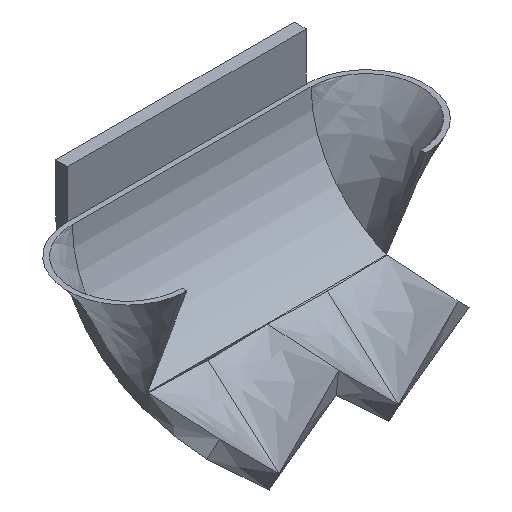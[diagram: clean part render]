
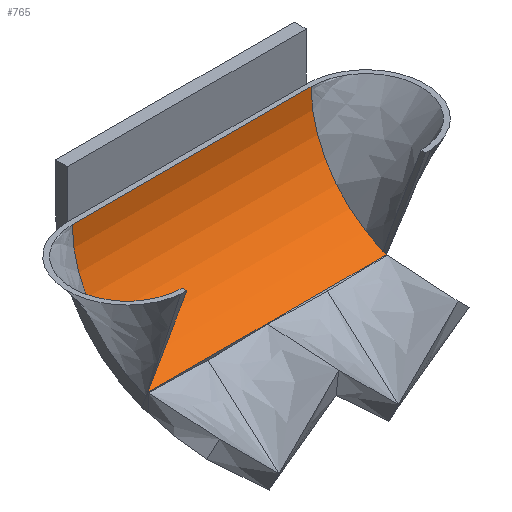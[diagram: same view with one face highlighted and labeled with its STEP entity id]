
A CAD part, isometric view. The second image highlights one B-rep face of the part: STEP entity #765.
In plain terms, the highlighted cylindrical face has radius 48 mm (diameter 96 mm), a partial arc.
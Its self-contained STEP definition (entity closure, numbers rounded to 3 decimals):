
#124=FACE_OUTER_BOUND('',#171,.T.);
#171=EDGE_LOOP('',(#652,#653,#654,#655,#656,#657,#658,#659,#660,#661));
#190=CIRCLE('',#802,48.);
#192=CIRCLE('',#805,48.);
#196=CIRCLE('',#810,48.);
#197=CIRCLE('',#811,48.);
#224=LINE('',#1587,#288);
#227=LINE('',#1608,#291);
#228=LINE('',#1654,#292);
#230=LINE('',#1683,#294);
#234=LINE('',#1733,#298);
#254=LINE('',#1982,#318);
#288=VECTOR('',#857,10.);
#291=VECTOR('',#860,10.);
#292=VECTOR('',#861,10.);
#294=VECTOR('',#863,10.);
#298=VECTOR('',#871,10.);
#318=VECTOR('',#931,10.);
#357=VERTEX_POINT('',#1585);
#358=VERTEX_POINT('',#1586);
#360=VERTEX_POINT('',#1606);
#361=VERTEX_POINT('',#1653);
#363=VERTEX_POINT('',#1681);
#365=VERTEX_POINT('',#1732);
#367=VERTEX_POINT('',#1777);
#368=VERTEX_POINT('',#1778);
#373=VERTEX_POINT('',#1851);
#376=VERTEX_POINT('',#1898);
#433=EDGE_CURVE('',#357,#358,#224,.T.);
#437=EDGE_CURVE('',#358,#360,#227,.T.);
#438=EDGE_CURVE('',#360,#361,#228,.T.);
#441=EDGE_CURVE('',#361,#363,#230,.T.);
#447=EDGE_CURVE('',#365,#357,#234,.T.);
#450=EDGE_CURVE('',#367,#368,#190,.T.);
#453=EDGE_CURVE('',#368,#363,#192,.T.);
#460=EDGE_CURVE('',#365,#373,#196,.T.);
#464=EDGE_CURVE('',#373,#376,#197,.T.);
#479=EDGE_CURVE('',#376,#367,#254,.T.);
#652=ORIENTED_EDGE('',*,*,#479,.F.);
#653=ORIENTED_EDGE('',*,*,#464,.F.);
#654=ORIENTED_EDGE('',*,*,#460,.F.);
#655=ORIENTED_EDGE('',*,*,#447,.T.);
#656=ORIENTED_EDGE('',*,*,#433,.T.);
#657=ORIENTED_EDGE('',*,*,#437,.T.);
#658=ORIENTED_EDGE('',*,*,#438,.T.);
#659=ORIENTED_EDGE('',*,*,#441,.T.);
#660=ORIENTED_EDGE('',*,*,#453,.F.);
#661=ORIENTED_EDGE('',*,*,#450,.F.);
#734=CYLINDRICAL_SURFACE('',#822,48.);
#765=ADVANCED_FACE('',(#124),#734,.F.);
#802=AXIS2_PLACEMENT_3D('',#1779,#874,#875);
#805=AXIS2_PLACEMENT_3D('',#1784,#881,#882);
#810=AXIS2_PLACEMENT_3D('',#1852,#894,#895);
#811=AXIS2_PLACEMENT_3D('',#1899,#899,#900);
#822=AXIS2_PLACEMENT_3D('',#1983,#932,#933);
#857=DIRECTION('',(1.,0.,0.));
#860=DIRECTION('',(1.,0.,0.));
#861=DIRECTION('',(1.,0.,0.));
#863=DIRECTION('',(1.,0.,0.));
#871=DIRECTION('',(1.,0.,0.));
#874=DIRECTION('center_axis',(-1.,0.,0.));
#875=DIRECTION('ref_axis',(0.,0.342,-0.94));
#881=DIRECTION('center_axis',(-1.,0.,0.));
#882=DIRECTION('ref_axis',(0.,0.342,-0.94));
#894=DIRECTION('center_axis',(1.,0.,0.));
#895=DIRECTION('ref_axis',(0.,0.342,-0.94));
#899=DIRECTION('center_axis',(1.,0.,0.));
#900=DIRECTION('ref_axis',(0.,0.342,-0.94));
#931=DIRECTION('',(1.,0.,0.));
#932=DIRECTION('center_axis',(-1.,0.,0.));
#933=DIRECTION('ref_axis',(0.,0.342,-0.94));
#1585=CARTESIAN_POINT('',(0.,-54.856,-55.752));
#1586=CARTESIAN_POINT('',(1.717,-54.856,-55.752));
#1587=CARTESIAN_POINT('',(0.,-54.856,-55.752));
#1606=CARTESIAN_POINT('',(25.001,-54.856,-55.752));
#1608=CARTESIAN_POINT('',(0.,-54.856,-55.752));
#1653=CARTESIAN_POINT('',(44.066,-54.856,-55.752));
#1654=CARTESIAN_POINT('',(0.,-54.856,-55.752));
#1681=CARTESIAN_POINT('',(50.,-54.856,-55.752));
#1683=CARTESIAN_POINT('',(0.,-54.856,-55.752));
#1732=CARTESIAN_POINT('',(-50.,-54.856,-55.752));
#1733=CARTESIAN_POINT('',(0.,-54.856,-55.752));
#1777=CARTESIAN_POINT('',(50.,-23.273,-10.646));
#1778=CARTESIAN_POINT('',(50.,-53.382,-55.187));
#1779=CARTESIAN_POINT('Origin',(50.,-71.273,-10.646));
#1784=CARTESIAN_POINT('Origin',(50.,-71.273,-10.646));
#1851=CARTESIAN_POINT('',(-50.,-53.382,-55.187));
#1852=CARTESIAN_POINT('Origin',(-50.,-71.273,-10.646));
#1898=CARTESIAN_POINT('',(-50.,-23.273,-10.646));
#1899=CARTESIAN_POINT('Origin',(-50.,-71.273,-10.646));
#1982=CARTESIAN_POINT('',(0.,-23.273,-10.646));
#1983=CARTESIAN_POINT('Origin',(0.,-71.273,-10.646));
